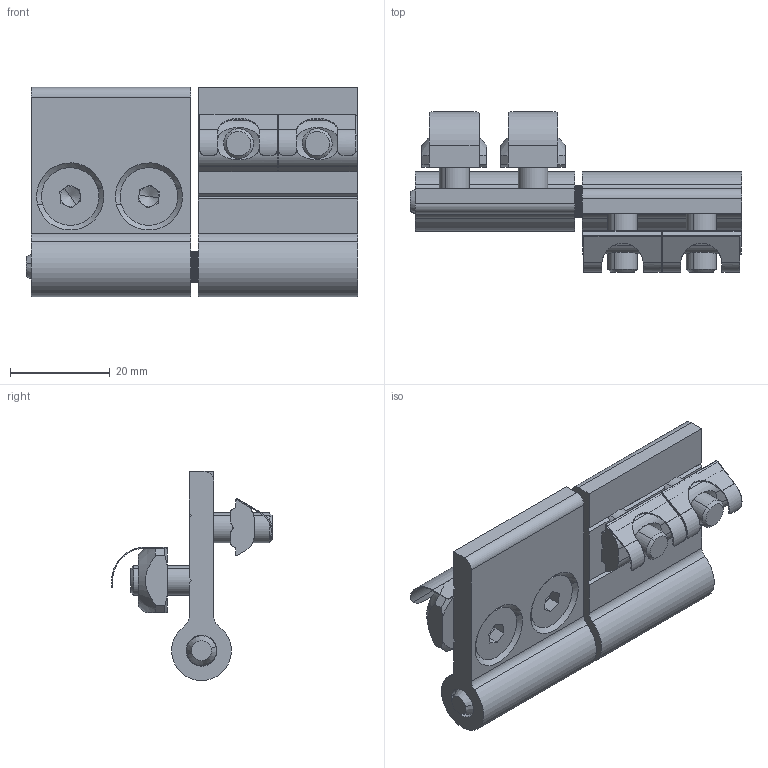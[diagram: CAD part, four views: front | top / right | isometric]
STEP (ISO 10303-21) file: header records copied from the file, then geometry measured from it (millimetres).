
FILE_DESCRIPTION (( 'STEP AP214' ), '1' );
FILE_NAME ('1.4048 Sarana 40-19.STEP', '2025-09-15T08:19:33', ( '' ), ( '' ), 'SwSTEP 2.0', 'SolidWorks 2025', '' );
FILE_SCHEMA (( 'AUTOMOTIVE_DESIGN' ));
Length unit declared in the file: millimetre
Products named in the file (1): 1.4048 Sarana 40-19
Bounding box: 66.5 x 32.29 x 42 mm (x, y, z)
Volume: 20204.6 mm3; surface area: 15136.5 mm2
Topology: 11 solids, 11 shells, 712 faces, 1770 edges, 1140 vertices
Faces by surface type: plane 476, cylinder 172, cone 56, torus 8
Entity records: 29471 total; most frequent: CARTESIAN_POINT 4355, DIRECTION 3608, ORIENTED_EDGE 3524, EDGE_CURVE 1762, AXIS2_PLACEMENT_3D 1265, VERTEX_POINT 1140, VECTOR 1078, LINE 1078
